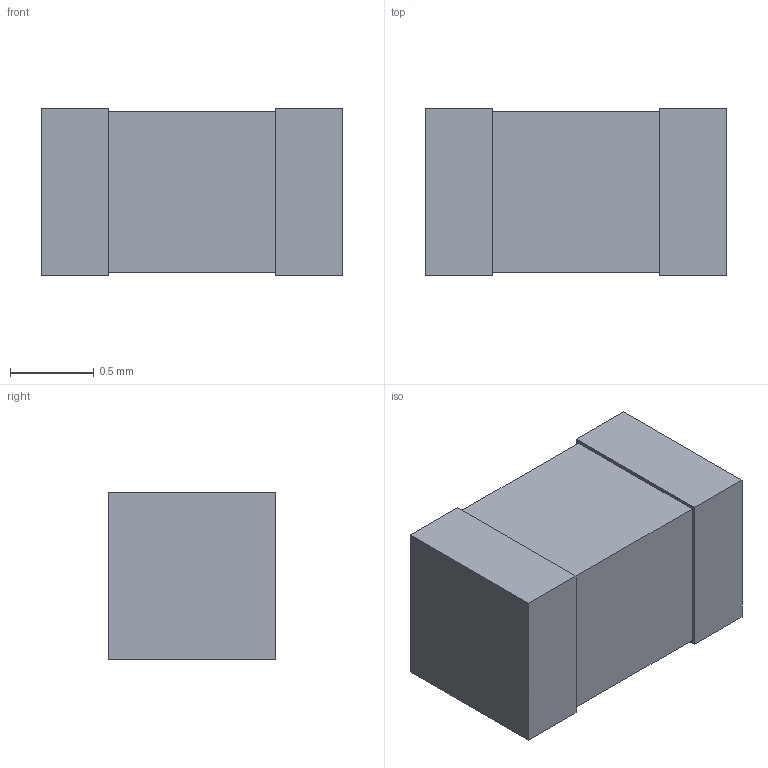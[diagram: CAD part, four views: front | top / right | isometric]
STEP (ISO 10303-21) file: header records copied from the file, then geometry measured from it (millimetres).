
FILE_DESCRIPTION (( 'STEP AP214' ), '1' );
FILE_NAME ('NTHS0603 V2.STEP', '2023-04-13T08:18:10', ( '' ), ( '' ), 'SwSTEP 2.0', 'SolidWorks 2022', '' );
FILE_SCHEMA (( 'AUTOMOTIVE_DESIGN' ));
Length unit declared in the file: millimetre
Products named in the file (1): NTHS0603 V2
Bounding box: 1.8 x 1 x 1 mm (x, y, z)
Volume: 1.7 mm3; surface area: 9.2 mm2
Topology: 1 solids, 1 shells, 16 faces, 36 edges, 24 vertices
Faces by surface type: plane 16
Entity records: 474 total; most frequent: CARTESIAN_POINT 77, ORIENTED_EDGE 72, DIRECTION 70, EDGE_CURVE 36, LINE 36, VECTOR 36, VERTEX_POINT 24, EDGE_LOOP 18
